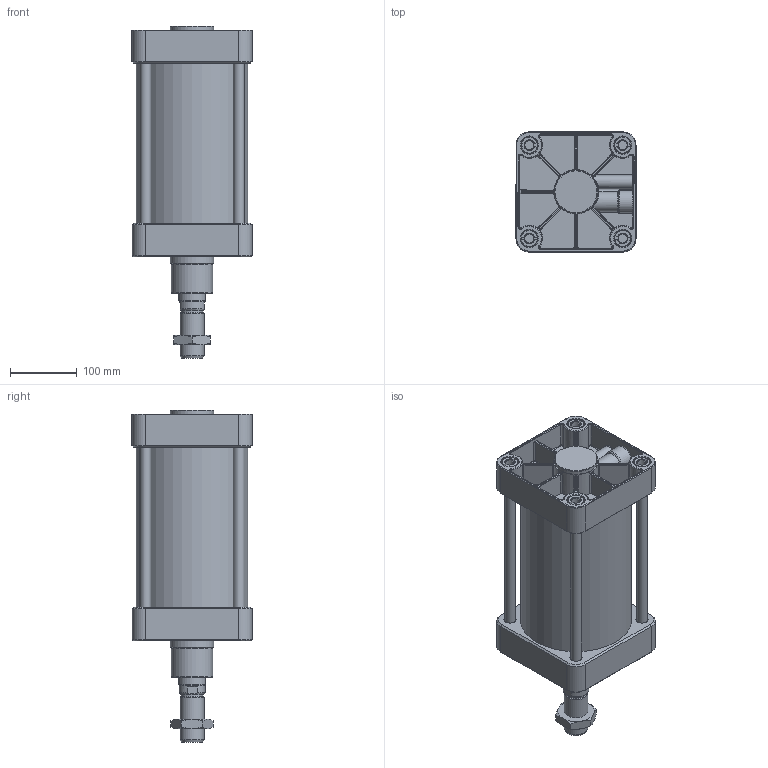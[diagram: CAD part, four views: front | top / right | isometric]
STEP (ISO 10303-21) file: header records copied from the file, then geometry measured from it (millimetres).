
FILE_DESCRIPTION(/* description */ ('Unknown'),/* implementation_level */ '2;1');
FILE_NAME(/* name */ 'UDM 160_160',/* time_stamp */ '2024-08-15T08:44:00+02:00',/* author */ ('Unknown'),/* organization */ ('Unknown'),/* preprocessor_version */ 'ST-DEVELOPER v16.7',/* originating_system */ 'Solid Edge',/* authorisation */ 'Unknown');
FILE_SCHEMA (('AUTOMOTIVE_DESIGN {1 0 10303 214 3 1 1}'));
Length unit declared in the file: millimetre
Products named in the file (7): UDM 160_160; Profilrohr 160_160; Mutter; Kolbenstange 160_160; Kit_1; Zugstange 160_160; Kit_2
Assembly tree (9 placements, depth 2):
  UDM 160_160
    Profilrohr 160_160
    Mutter
    Kolbenstange 160_160
    Kit_1
    Zugstange 160_160  x4
    Kit_2
Bounding box: 180 x 180 x 498 mm (x, y, z)
Volume: 4340997 mm3; surface area: 849056.2 mm2
Topology: 9 solids, 14 shells, 1263 faces, 3132 edges, 1924 vertices
Faces by surface type: cylinder 416, plane 386, torus 240, bspline 114, cone 97, sphere 10
Full cylindrical faces by diameter (mm): 6 x2, 8 x2, 8.2 x2, 12 x2, 13.82 x8, 13.835 x8, 16 x6, 17.5 x8, 18 x2, 24.11 x2, 24.117 x2, 25 x8, 26 x8, 32.8 x1, 33.835 x1, 36 x3, 39 x1, 40 x2, 40.6 x1, 40.8 x1, 40.962 x1, 45 x2, 50 x2, 62 x1, 65 x2, 66.5 x2, 160 x2, 167 x1
Entity records: 50402 total; most frequent: CARTESIAN_POINT 13835, ORIENTED_EDGE 5970, DIRECTION 5415, EDGE_CURVE 2985, AXIS2_PLACEMENT_3D 2182, VERTEX_POINT 1882, EDGE_LOOP 1395, FACE_BOUND 1395
